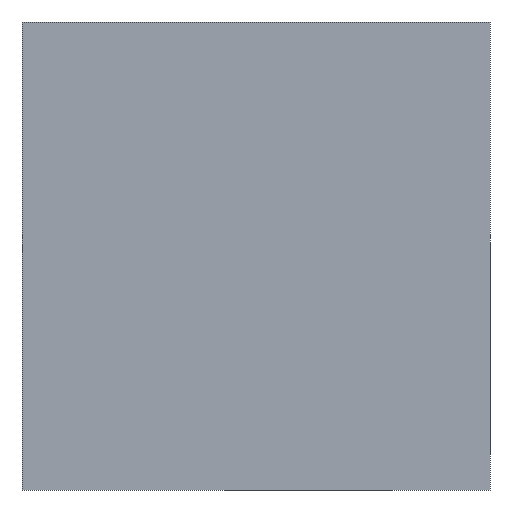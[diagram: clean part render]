
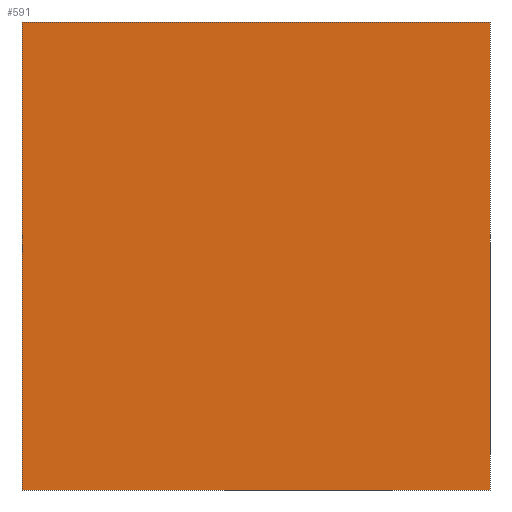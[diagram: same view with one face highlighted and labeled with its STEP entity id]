
A CAD part, front view. The second image highlights one B-rep face of the part: STEP entity #591.
In plain terms, the highlighted planar face has unit normal (0, -1, 0).
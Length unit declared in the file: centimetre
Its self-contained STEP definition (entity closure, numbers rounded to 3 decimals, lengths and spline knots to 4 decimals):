
#22 = CARTESIAN_POINT ( 'NONE',  ( 0., 0., 1000. ) ) ;
#27 = AXIS2_PLACEMENT_3D ( 'NONE', #246, #666, #406 ) ;
#43 = VERTEX_POINT ( 'NONE', #941 ) ;
#56 = EDGE_LOOP ( 'NONE', ( #455, #470, #947, #398 ) ) ;
#75 = LINE ( 'NONE', #399, #565 ) ;
#85 = CARTESIAN_POINT ( 'NONE',  ( 1000., 0., 1000. ) ) ;
#113 = LINE ( 'NONE', #819, #932 ) ;
#134 = VECTOR ( 'NONE', #804, 100. ) ;
#222 = VERTEX_POINT ( 'NONE', #724 ) ;
#246 = CARTESIAN_POINT ( 'NONE',  ( 0., 0., 1000. ) ) ;
#284 = LINE ( 'NONE', #22, #354 ) ;
#287 = EDGE_CURVE ( 'NONE', #222, #43, #75, .T. ) ;
#330 = DIRECTION ( 'NONE',  ( 0., 0., -1. ) ) ;
#345 = DIRECTION ( 'NONE',  ( 1., 0., 0. ) ) ;
#346 = EDGE_CURVE ( 'NONE', #822, #451, #828, .T. ) ;
#354 = VECTOR ( 'NONE', #345, 100. ) ;
#398 = ORIENTED_EDGE ( 'NONE', *, *, #287, .T. ) ;
#399 = CARTESIAN_POINT ( 'NONE',  ( 0., 0., 1000. ) ) ;
#406 = DIRECTION ( 'NONE',  ( 0., 0., 1. ) ) ;
#430 = CARTESIAN_POINT ( 'NONE',  ( 1000., 0., 0. ) ) ;
#451 = VERTEX_POINT ( 'NONE', #430 ) ;
#455 = ORIENTED_EDGE ( 'NONE', *, *, #896, .T. ) ;
#470 = ORIENTED_EDGE ( 'NONE', *, *, #346, .F. ) ;
#518 = CARTESIAN_POINT ( 'NONE',  ( 1000., 0., 1000. ) ) ;
#539 = DIRECTION ( 'NONE',  ( 1., 0., 0. ) ) ;
#565 = VECTOR ( 'NONE', #330, 100. ) ;
#587 = FACE_OUTER_BOUND ( 'NONE', #56, .T. ) ;
#591 = ADVANCED_FACE ( 'NONE', ( #587 ), #996, .F. ) ;
#666 = DIRECTION ( 'NONE',  ( 0., 1., 0. ) ) ;
#724 = CARTESIAN_POINT ( 'NONE',  ( 0., 0., 1000. ) ) ;
#788 = EDGE_CURVE ( 'NONE', #222, #822, #284, .T. ) ;
#804 = DIRECTION ( 'NONE',  ( 0., 0., -1. ) ) ;
#819 = CARTESIAN_POINT ( 'NONE',  ( 0., 0., 0. ) ) ;
#822 = VERTEX_POINT ( 'NONE', #518 ) ;
#828 = LINE ( 'NONE', #85, #134 ) ;
#896 = EDGE_CURVE ( 'NONE', #43, #451, #113, .T. ) ;
#932 = VECTOR ( 'NONE', #539, 100. ) ;
#941 = CARTESIAN_POINT ( 'NONE',  ( 0., 0., 0. ) ) ;
#947 = ORIENTED_EDGE ( 'NONE', *, *, #788, .F. ) ;
#996 = PLANE ( 'NONE',  #27 ) ;
